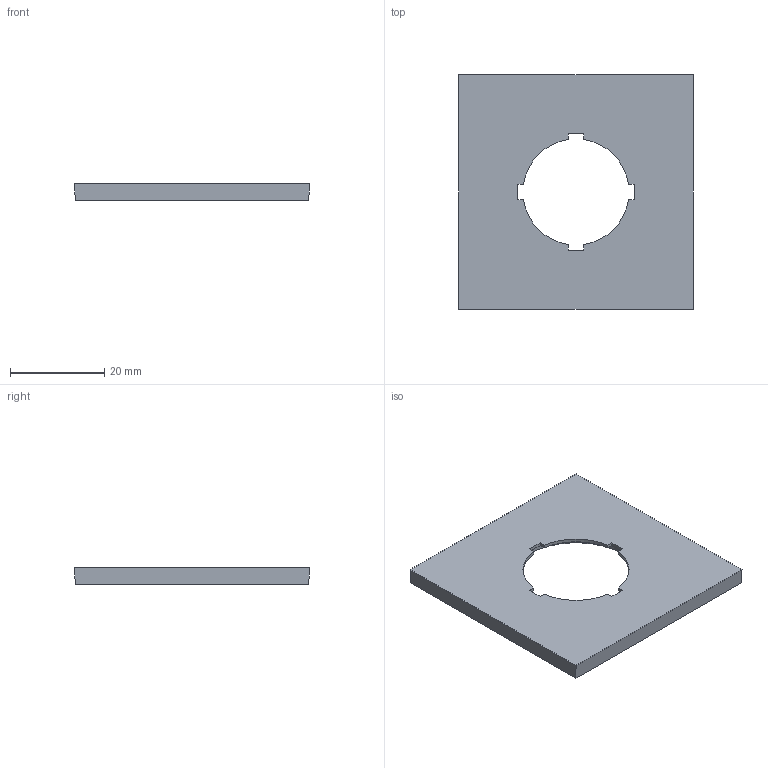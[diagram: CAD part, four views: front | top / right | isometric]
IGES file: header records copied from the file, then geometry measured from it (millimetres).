
Start section: Data from XPlus IGES,  Spatial Corp. Copyright (c) 1999-2004
Global section: file name: 279433.igs; native system:  By Spatial Corp.; preprocessor: XPlus ACIS/IGES 3.0; author: Noname; organization: Noname; date: 20120614.152726; units: millimetre
Bounding box: 49.8 x 49.8 x 3.4 mm (x, y, z)
Surface area: 5332.1 mm2 (no closed solid volume)
Topology: 0 solids, 0 shells, 36 faces, 180 edges, 180 vertices
Faces by surface type: extrusion 26, revolution 10
